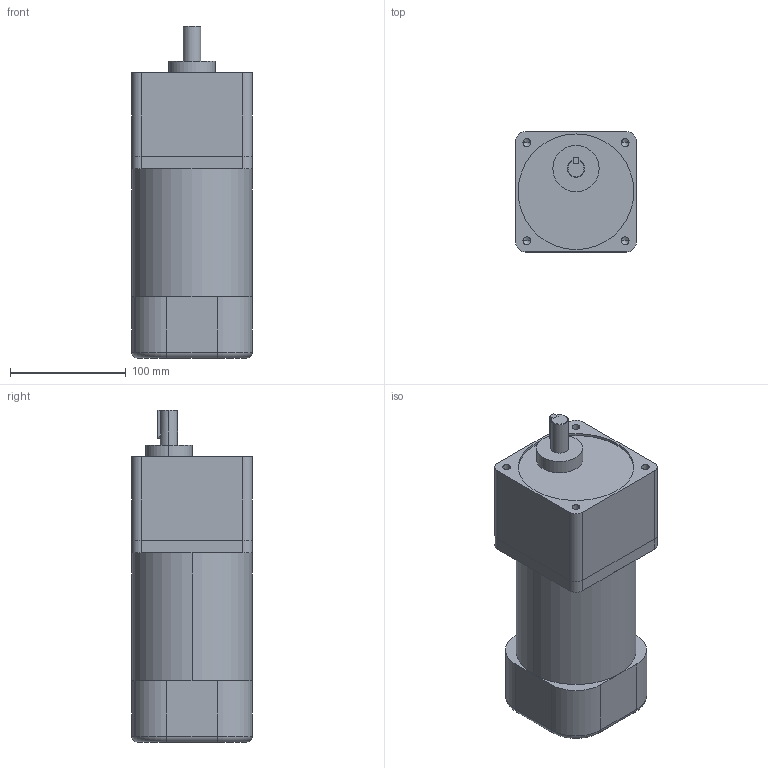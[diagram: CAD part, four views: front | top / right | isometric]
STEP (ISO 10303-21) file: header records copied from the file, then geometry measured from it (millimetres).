
FILE_DESCRIPTION (( 'STEP AP203' ), '1' );
FILE_NAME ('M6TK-90C.STEP', '2019-02-15T06:50:15', ( 'User' ), ( 'www.dadighost.com' ), 'SwSTEP 2.0', 'SolidWorks 2014', '' );
FILE_SCHEMA (( 'CONFIG_CONTROL_DESIGN' ));
Length unit declared in the file: millimetre
Products named in the file (1): M6TK-90C
Bounding box: 104 x 104 x 287 mm (x, y, z)
Volume: 2366166.2 mm3; surface area: 138978.3 mm2
Topology: 3 solids, 3 shells, 85 faces, 198 edges, 118 vertices
Faces by surface type: cylinder 35, plane 35, cone 11, torus 4
Entity records: 2461 total; most frequent: DIRECTION 440, CARTESIAN_POINT 431, ORIENTED_EDGE 380, EDGE_CURVE 190, AXIS2_PLACEMENT_3D 167, VERTEX_POINT 118, VECTOR 106, LINE 106
